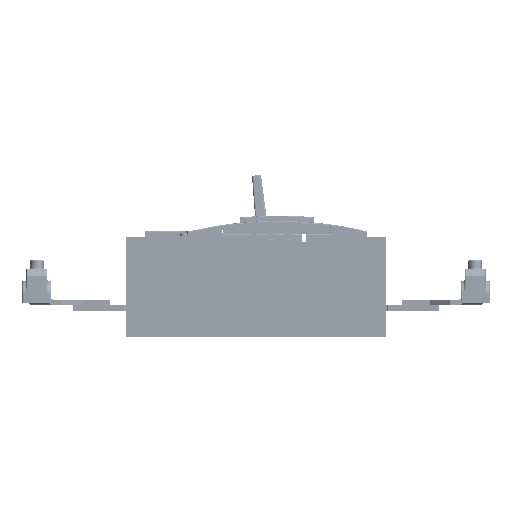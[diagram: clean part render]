
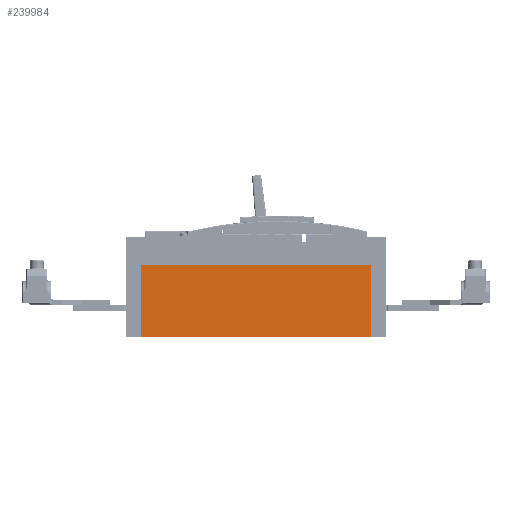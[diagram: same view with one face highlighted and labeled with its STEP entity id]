
A CAD part, left-side view. The second image highlights one B-rep face of the part: STEP entity #239984.
In plain terms, the highlighted planar face has unit normal (-1, 0, 0).
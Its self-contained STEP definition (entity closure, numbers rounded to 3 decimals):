
#14108 = CARTESIAN_POINT ( 'NONE',  ( -185.989, 138.477, -36.706 ) ) ;
#14111 = DIRECTION ( 'NONE',  ( 0., -1., 0. ) ) ;
#14112 = VECTOR ( 'NONE', #14111, 1000. ) ;
#14113 = CARTESIAN_POINT ( 'NONE',  ( -185.989, -171.523, -36.706 ) ) ;
#14115 = LINE ( 'NONE', #14113, #14112 ) ;
#14141 = CARTESIAN_POINT ( 'NONE',  ( -185.989, -171.523, -36.706 ) ) ;
#15280 = CARTESIAN_POINT ( 'NONE',  ( -185.989, -171.523, 59.794 ) ) ;
#15293 = DIRECTION ( 'NONE',  ( 0., -1., 0. ) ) ;
#15295 = VECTOR ( 'NONE', #15293, 1000. ) ;
#15297 = CARTESIAN_POINT ( 'NONE',  ( -185.989, -171.523, 59.794 ) ) ;
#15299 = LINE ( 'NONE', #15297, #15295 ) ;
#15795 = CARTESIAN_POINT ( 'NONE',  ( -185.989, 138.477, 59.794 ) ) ;
#239794 = EDGE_CURVE ( 'NONE', #277960, #277260, #311816, .T. ) ;
#239804 = EDGE_LOOP ( 'NONE', ( #239993, #240001, #240007, #239964 ) ) ;
#239959 = EDGE_CURVE ( 'NONE', #277729, #277244, #312540, .T. ) ;
#239964 = ORIENTED_EDGE ( 'NONE', *, *, #277720, .F. ) ;
#239984 = ADVANCED_FACE ( 'NONE', ( #312440 ), #312610, .F. ) ;
#239993 = ORIENTED_EDGE ( 'NONE', *, *, #239794, .T. ) ;
#240001 = ORIENTED_EDGE ( 'NONE', *, *, #277258, .T. ) ;
#240007 = ORIENTED_EDGE ( 'NONE', *, *, #239959, .F. ) ;
#277244 = VERTEX_POINT ( 'NONE', #14141 ) ;
#277258 = EDGE_CURVE ( 'NONE', #277260, #277244, #14115, .T. ) ;
#277260 = VERTEX_POINT ( 'NONE', #14108 ) ;
#277720 = EDGE_CURVE ( 'NONE', #277960, #277729, #15299, .T. ) ;
#277729 = VERTEX_POINT ( 'NONE', #15280 ) ;
#277960 = VERTEX_POINT ( 'NONE', #15795 ) ;
#311810 = DIRECTION ( 'NONE',  ( 0., 0., -1. ) ) ;
#311811 = VECTOR ( 'NONE', #311810, 1000. ) ;
#311814 = CARTESIAN_POINT ( 'NONE',  ( -185.989, 138.477, 59.794 ) ) ;
#311816 = LINE ( 'NONE', #311814, #311811 ) ;
#312440 = FACE_OUTER_BOUND ( 'NONE', #239804, .T. ) ;
#312537 = DIRECTION ( 'NONE',  ( 0., 0., -1. ) ) ;
#312538 = VECTOR ( 'NONE', #312537, 1000. ) ;
#312539 = CARTESIAN_POINT ( 'NONE',  ( -185.989, -171.523, 59.794 ) ) ;
#312540 = LINE ( 'NONE', #312539, #312538 ) ;
#312594 = DIRECTION ( 'NONE',  ( 0., 0., -1. ) ) ;
#312599 = DIRECTION ( 'NONE',  ( 1., 0., 0. ) ) ;
#312600 = CARTESIAN_POINT ( 'NONE',  ( -185.989, -171.523, 59.794 ) ) ;
#312602 = AXIS2_PLACEMENT_3D ( 'NONE', #312600, #312599, #312594 ) ;
#312610 = PLANE ( 'NONE',  #312602 ) ;
